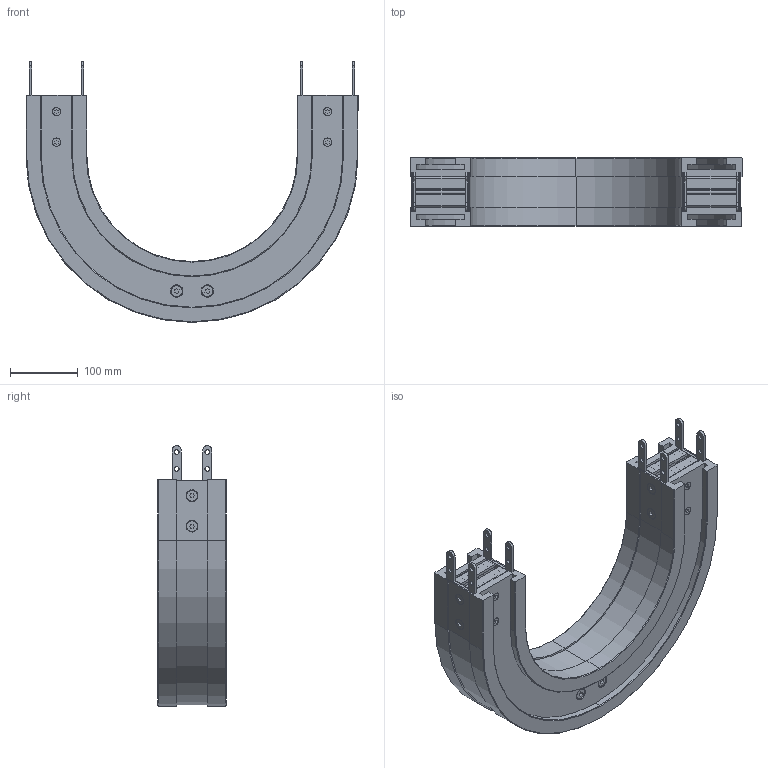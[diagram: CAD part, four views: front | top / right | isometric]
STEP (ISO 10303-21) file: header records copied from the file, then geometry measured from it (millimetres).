
FILE_DESCRIPTION (( 'STEP AP214' ), '1' );
FILE_NAME ('2000.325.418.STEP', '2021-02-11T09:36:11', ( '' ), ( '' ), 'SwSTEP 2.0', 'SolidWorks 2018', '' );
FILE_SCHEMA (( 'AUTOMOTIVE_DESIGN' ));
Length unit declared in the file: millimetre
Products named in the file (10): 2000.325.455_Default<A macchina>; 084.302.000 DADI ALUSIC 13x13-1_084.302.008; VITI TSEI UNI 5933_M6x20 UNI 5933; 2000.325.429_Default<A macchina>; VITI TSEI UNI 5933_M8x20 UNI 5933; 2000.325.439_2000.1200.490; 2000.325.440; 2000.325.441; 2000.001.402; 2000.325.418
Assembly tree (39 placements, depth 2):
  2000.325.418
    2000.325.439_2000.1200.490  x2
    2000.325.429_Default<A macchina>  x2
    2000.001.402  x4
    2000.325.441
    2000.325.440
    VITI TSEI UNI 5933_M8x20 UNI 5933  x12
    VITI TSEI UNI 5933_M6x20 UNI 5933  x8
    084.302.000 DADI ALUSIC 13x13-1_084.302.008  x8
    2000.325.455_Default<A macchina>
Bounding box: 490 x 101 x 385 mm (x, y, z)
Volume: 2923380.4 mm3; surface area: 1018391.9 mm2
Topology: 47 solids, 47 shells, 1501 faces, 3901 edges, 2514 vertices
Faces by surface type: plane 768, cylinder 537, cone 164, torus 32
Entity records: 20983 total; most frequent: CARTESIAN_POINT 3646, DIRECTION 3618, ORIENTED_EDGE 3464, EDGE_CURVE 1732, AXIS2_PLACEMENT_3D 1238, LINE 1142, VECTOR 1142, VERTEX_POINT 1134
